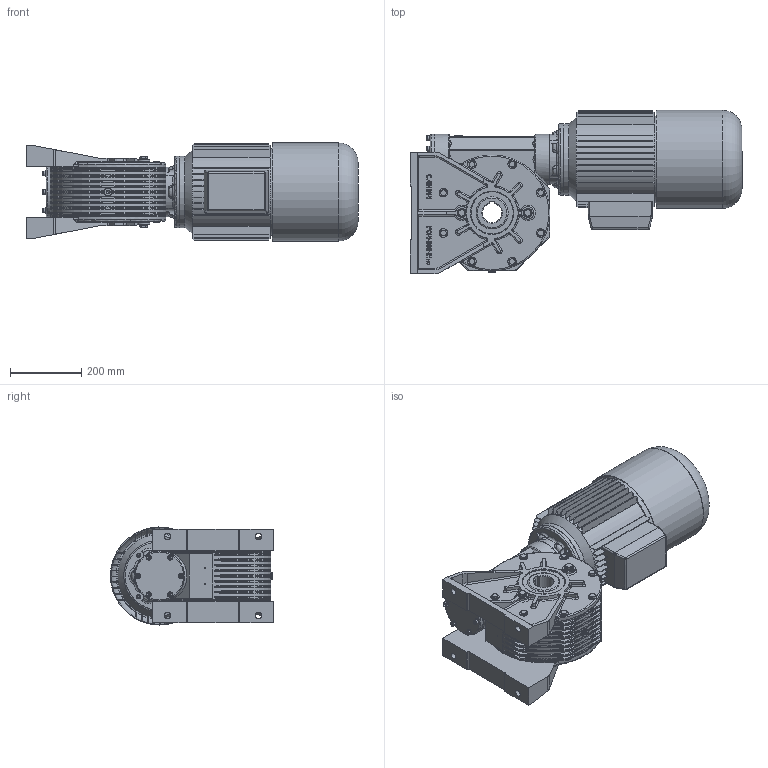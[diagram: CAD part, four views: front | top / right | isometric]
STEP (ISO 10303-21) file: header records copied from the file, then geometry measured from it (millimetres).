
FILE_DESCRIPTION((''),'2;1');
FILE_NAME('Y:\Archivi Inventor\Prog_01\GRAND_70\complessivi\Figurini\mrv70 sito\132s autofrenante\MRV70_P3_132S_B14.stp','2013-02-08T15:31:45',('tech3'),(''),'Autodesk Inventor 2013','Autodesk Inventor 2013','');
FILE_SCHEMA(('AUTOMOTIVE_DESIGN { 1 0 10303 214 1 1 1 1 }'));
Length unit declared in the file: millimetre
Products named in the file (17): MRV70_132S_132M_B14; MRV70 figurino; 0107001-A0 figurino; 0107008.A0 figurino; 0107010.A0 figurino; 0107029; 0107009; 0107028; DIN 3760 AS AS - 90 x 120 x 12 - NBR; UNI 8839 A 8; Guarnizione 3_8 GAS; Tappo 3_8 GAS_esagn_incsst; DIN EN ISO 4762 M8 x 20; DIN EN 24017 M10 x 20; Tappo3_8 GAS; 0107006; motori B14 brake 132S
Assembly tree (60 placements, depth 3):
  MRV70_132S_132M_B14
    MRV70 figurino
      0107001-A0 figurino
      0107008.A0 figurino
      0107010.A0 figurino  x2
      0107029  x2
      0107009
      0107028  x2
      DIN 3760 AS AS - 90 x 120 x 12 - NBR  x2
      UNI 8839 A 8  x6
      Guarnizione 3_8 GAS  x6
      Tappo 3_8 GAS_esagn_incsst  x2
      DIN EN ISO 4762 M8 x 20  x6
      DIN EN 24017 M10 x 20  x16
      Tappo3_8 GAS  x4
    0107006
    DIN EN ISO 4762 M8 x 20  x6
    motori B14 brake 132S
Bounding box: 930.4 x 457.49 x 274.99 mm (x, y, z)
Volume: 31406415.7 mm3; surface area: 2685570.1 mm2
Topology: 60 solids, 60 shells, 2971 faces, 7397 edges, 4586 vertices
Faces by surface type: plane 1228, cylinder 675, bspline 643, cone 225, torus 192, sphere 8
Full cylindrical faces by diameter (mm): 2 x2, 5 x1, 6.647 x12, 8 x14, 8.376 x20, 8.5 x24, 10 x16, 10.5 x16, 11 x16, 11.5 x4, 13 x12, 13.046 x4, 14.63 x16, 14.95 x6, 16.3 x6, 16.5 x2, 18 x4, 20 x6, 22 x12, 24 x18, 25 x4, 38 x1, 61 x1, 75 x1, 90 x4, 97.2 x2, 100 x6, 114 x2, 120 x4, 130 x1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
Entity records: 66415 total; most frequent: CARTESIAN_POINT 24032, ORIENTED_EDGE 8662, DIRECTION 7934, EDGE_CURVE 4331, AXIS2_PLACEMENT_3D 3021, VERTEX_POINT 2806, EDGE_LOOP 2215, VECTOR 1892
